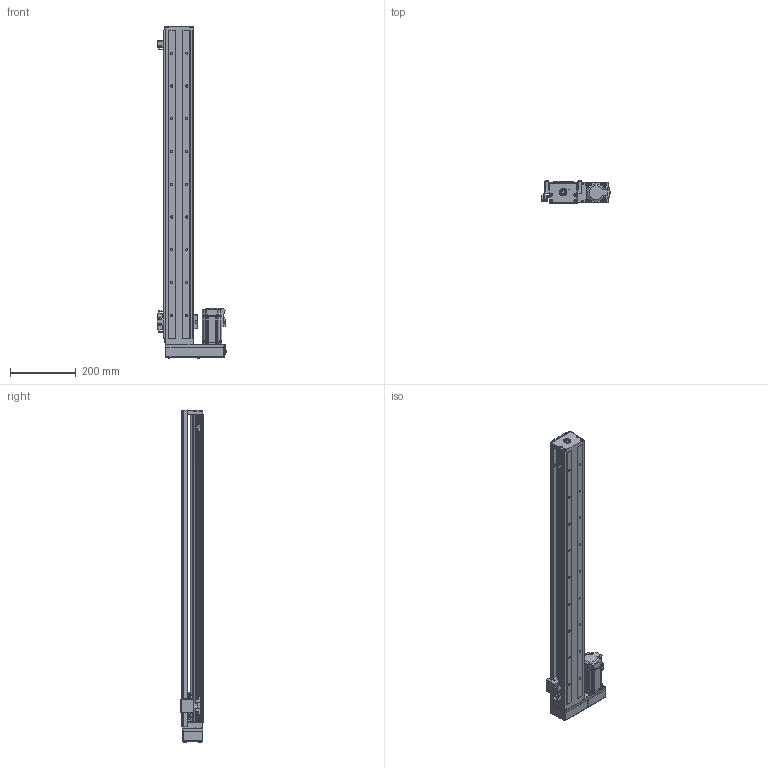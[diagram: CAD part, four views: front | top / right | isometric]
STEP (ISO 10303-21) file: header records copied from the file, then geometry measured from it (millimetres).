
FILE_DESCRIPTION (( 'STEP AP214' ), '1' );
FILE_NAME ('SFKK86-940S1-HR0C.STEP', '2022-05-05T13:50:01', ( '微软用户' ), ( '微软中国' ), 'SwSTEP 2.0', 'SolidWorks 2018', '' );
FILE_SCHEMA (( 'AUTOMOTIVE_DESIGN' ));
Length unit declared in the file: millimetre
Products named in the file (13): 极限轨道与开关固定座组合_940; 蚐郲; SX674嫖萇羲壽; SFKK86-S1; SFKK86-H0_KKR86-ZT-P-940; SFKK86-940S1-HR0C; SFKK86-H0-侂狟400W耜蚾; SFKK86-CU_940; SFKK86-FS; SFKK86-LR 憤癹寢耋_940; 带盖挡光片：KK-86-S2-D1; 开关固定座：KK-674S2-F; hexagon socket countersunk head screws gb_GB_FASTENER_SCREWS_HSCHS M4X10-N
Assembly tree (18 placements, depth 3):
  SFKK86-940S1-HR0C
    SFKK86-H0_KKR86-ZT-P-940
    SFKK86-S1
    极限轨道与开关固定座组合_940
      SFKK86-LR 憤癹寢耋_940
      开关固定座：KK-674S2-F  x2
    SX674嫖萇羲壽  x3
    蚐郲
    SFKK86-FS
    带盖挡光片：KK-86-S2-D1
    SFKK86-CU_940
    hexagon socket countersunk head screws gb_GB_FASTENER_SCREWS_HSCHS M4X10-N  x4
    SFKK86-H0-侂狟400W耜蚾
Bounding box: 208.5 x 68 x 1013.2 mm (x, y, z)
Volume: 2132164.1 mm3; surface area: 833490.2 mm2
Topology: 31 solids, 80 shells, 3615 faces, 9697 edges, 6217 vertices
Faces by surface type: plane 1571, cylinder 1499, cone 321, bspline 104, torus 87, sphere 33
Entity records: 147169 total; most frequent: CARTESIAN_POINT 32378, DIRECTION 18167, ORIENTED_EDGE 17626, EDGE_CURVE 9096, AXIS2_PLACEMENT_3D 6504, VERTEX_POINT 5924, VECTOR 5159, LINE 5159
